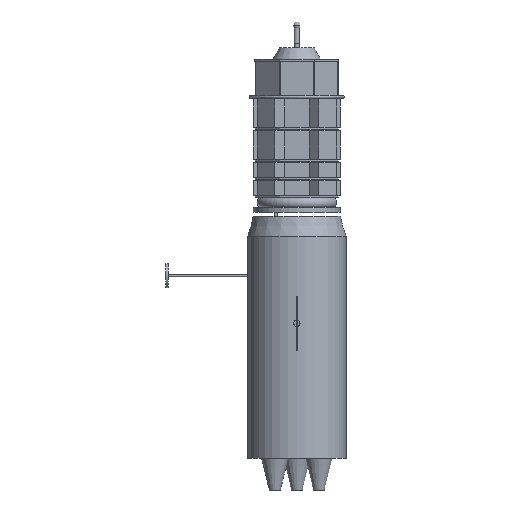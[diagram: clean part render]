
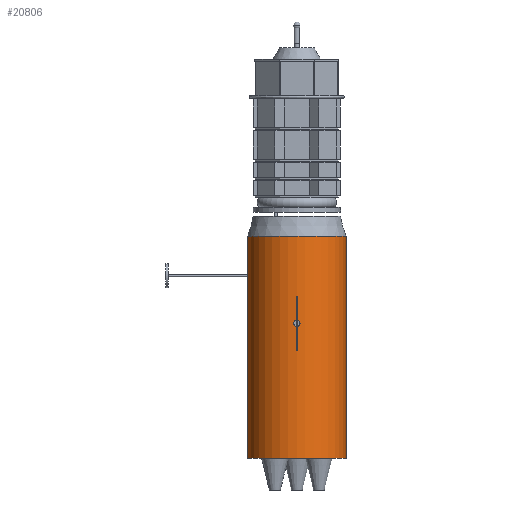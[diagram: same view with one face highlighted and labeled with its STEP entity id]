
A CAD part, left-side view. The second image highlights one B-rep face of the part: STEP entity #20806.
In plain terms, the highlighted cylindrical face has radius 0.62 mm (diameter 1.24 mm), a full revolution.
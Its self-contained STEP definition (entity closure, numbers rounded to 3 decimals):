
#20806 = ADVANCED_FACE('',(#20807),#20820,.T.);
#20807 = FACE_BOUND('',#20808,.T.);
#20808 = EDGE_LOOP('',(#20809,#20843,#20866,#20893));
#20809 = ORIENTED_EDGE('',*,*,#20810,.F.);
#20810 = EDGE_CURVE('',#20811,#20811,#20813,.T.);
#20811 = VERTEX_POINT('',#20812);
#20812 = CARTESIAN_POINT('',(0.62,0.,-0.5));
#20813 = SURFACE_CURVE('',#20814,(#20819,#20831),.PCURVE_S1.);
#20814 = CIRCLE('',#20815,0.62);
#20815 = AXIS2_PLACEMENT_3D('',#20816,#20817,#20818);
#20816 = CARTESIAN_POINT('',(0.,0.,-0.5));
#20817 = DIRECTION('',(0.,0.,1.));
#20818 = DIRECTION('',(1.,0.,-0.));
#20819 = PCURVE('',#20820,#20825);
#20820 = CYLINDRICAL_SURFACE('',#20821,0.62);
#20821 = AXIS2_PLACEMENT_3D('',#20822,#20823,#20824);
#20822 = CARTESIAN_POINT('',(0.,0.,-3.3));
#20823 = DIRECTION('',(0.,0.,1.));
#20824 = DIRECTION('',(1.,0.,-0.));
#20825 = DEFINITIONAL_REPRESENTATION('',(#20826),#20830);
#20826 = LINE('',#20827,#20828);
#20827 = CARTESIAN_POINT('',(0.,2.8));
#20828 = VECTOR('',#20829,1.);
#20829 = DIRECTION('',(1.,0.));
#20830 = ( GEOMETRIC_REPRESENTATION_CONTEXT(2) 
PARAMETRIC_REPRESENTATION_CONTEXT() REPRESENTATION_CONTEXT('2D SPACE',''
  ) );
#20831 = PCURVE('',#20832,#20837);
#20832 = PLANE('',#20833);
#20833 = AXIS2_PLACEMENT_3D('',#20834,#20835,#20836);
#20834 = CARTESIAN_POINT('',(0.,0.,-0.5));
#20835 = DIRECTION('',(0.,0.,1.));
#20836 = DIRECTION('',(1.,0.,-0.));
#20837 = DEFINITIONAL_REPRESENTATION('',(#20838),#20842);
#20838 = CIRCLE('',#20839,0.62);
#20839 = AXIS2_PLACEMENT_2D('',#20840,#20841);
#20840 = CARTESIAN_POINT('',(0.,0.));
#20841 = DIRECTION('',(1.,0.));
#20842 = ( GEOMETRIC_REPRESENTATION_CONTEXT(2) 
PARAMETRIC_REPRESENTATION_CONTEXT() REPRESENTATION_CONTEXT('2D SPACE',''
  ) );
#20843 = ORIENTED_EDGE('',*,*,#20844,.F.);
#20844 = EDGE_CURVE('',#20845,#20811,#20847,.T.);
#20845 = VERTEX_POINT('',#20846);
#20846 = CARTESIAN_POINT('',(0.62,0.,-3.3));
#20847 = SEAM_CURVE('',#20848,(#20852,#20859),.PCURVE_S1.);
#20848 = LINE('',#20849,#20850);
#20849 = CARTESIAN_POINT('',(0.62,0.,-3.3));
#20850 = VECTOR('',#20851,1.);
#20851 = DIRECTION('',(0.,0.,1.));
#20852 = PCURVE('',#20820,#20853);
#20853 = DEFINITIONAL_REPRESENTATION('',(#20854),#20858);
#20854 = LINE('',#20855,#20856);
#20855 = CARTESIAN_POINT('',(6.283,-0.));
#20856 = VECTOR('',#20857,1.);
#20857 = DIRECTION('',(0.,1.));
#20858 = ( GEOMETRIC_REPRESENTATION_CONTEXT(2) 
PARAMETRIC_REPRESENTATION_CONTEXT() REPRESENTATION_CONTEXT('2D SPACE',''
  ) );
#20859 = PCURVE('',#20820,#20860);
#20860 = DEFINITIONAL_REPRESENTATION('',(#20861),#20865);
#20861 = LINE('',#20862,#20863);
#20862 = CARTESIAN_POINT('',(0.,-0.));
#20863 = VECTOR('',#20864,1.);
#20864 = DIRECTION('',(0.,1.));
#20865 = ( GEOMETRIC_REPRESENTATION_CONTEXT(2) 
PARAMETRIC_REPRESENTATION_CONTEXT() REPRESENTATION_CONTEXT('2D SPACE',''
  ) );
#20866 = ORIENTED_EDGE('',*,*,#20867,.T.);
#20867 = EDGE_CURVE('',#20845,#20845,#20868,.T.);
#20868 = SURFACE_CURVE('',#20869,(#20874,#20881),.PCURVE_S1.);
#20869 = CIRCLE('',#20870,0.62);
#20870 = AXIS2_PLACEMENT_3D('',#20871,#20872,#20873);
#20871 = CARTESIAN_POINT('',(0.,0.,-3.3));
#20872 = DIRECTION('',(0.,0.,1.));
#20873 = DIRECTION('',(1.,0.,-0.));
#20874 = PCURVE('',#20820,#20875);
#20875 = DEFINITIONAL_REPRESENTATION('',(#20876),#20880);
#20876 = LINE('',#20877,#20878);
#20877 = CARTESIAN_POINT('',(0.,0.));
#20878 = VECTOR('',#20879,1.);
#20879 = DIRECTION('',(1.,0.));
#20880 = ( GEOMETRIC_REPRESENTATION_CONTEXT(2) 
PARAMETRIC_REPRESENTATION_CONTEXT() REPRESENTATION_CONTEXT('2D SPACE',''
  ) );
#20881 = PCURVE('',#20882,#20887);
#20882 = PLANE('',#20883);
#20883 = AXIS2_PLACEMENT_3D('',#20884,#20885,#20886);
#20884 = CARTESIAN_POINT('',(0.,0.,-3.3));
#20885 = DIRECTION('',(0.,0.,1.));
#20886 = DIRECTION('',(1.,0.,-0.));
#20887 = DEFINITIONAL_REPRESENTATION('',(#20888),#20892);
#20888 = CIRCLE('',#20889,0.62);
#20889 = AXIS2_PLACEMENT_2D('',#20890,#20891);
#20890 = CARTESIAN_POINT('',(0.,0.));
#20891 = DIRECTION('',(1.,0.));
#20892 = ( GEOMETRIC_REPRESENTATION_CONTEXT(2) 
PARAMETRIC_REPRESENTATION_CONTEXT() REPRESENTATION_CONTEXT('2D SPACE',''
  ) );
#20893 = ORIENTED_EDGE('',*,*,#20844,.T.);
